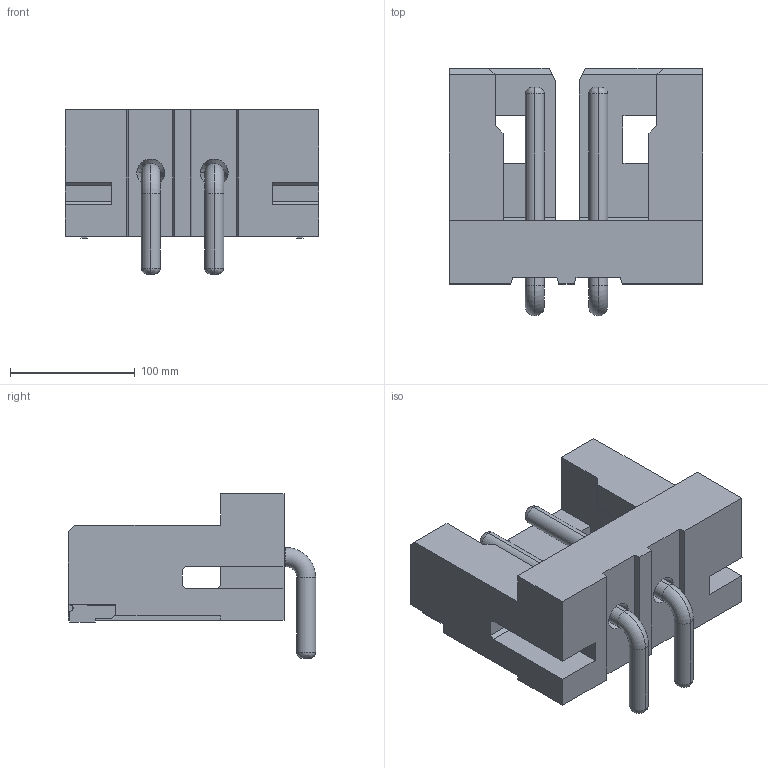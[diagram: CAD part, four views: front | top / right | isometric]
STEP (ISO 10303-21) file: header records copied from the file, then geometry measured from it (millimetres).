
FILE_DESCRIPTION((''),'2;1');
FILE_NAME('S-50315-002XX-XXX','2012-05-21T',('12236185'),(''),'PRO/ENGINEER BY PARAMETRIC TECHNOLOGY CORPORATION, 2009360','PRO/ENGINEER BY PARAMETRIC TECHNOLOGY CORPORATION, 2009360','');
FILE_SCHEMA(('CONFIG_CONTROL_DESIGN'));
Length unit declared in the file: inch
Products named in the file (1): S-50315-002XX-XXX
Bounding box: 203.2 x 198.12 x 132.08 mm (x, y, z)
Volume: 1867375.1 mm3; surface area: 194726.1 mm2
Topology: 1 solids, 1 shells, 170 faces, 540 edges, 408 vertices
Faces by surface type: plane 132, cylinder 22, bspline 8, cone 4, torus 4
Entity records: 6043 total; most frequent: CARTESIAN_POINT 1270, ORIENTED_EDGE 992, DIRECTION 938, EDGE_CURVE 496, VECTOR 454, LINE 454, VERTEX_POINT 322, AXIS2_PLACEMENT_3D 242
